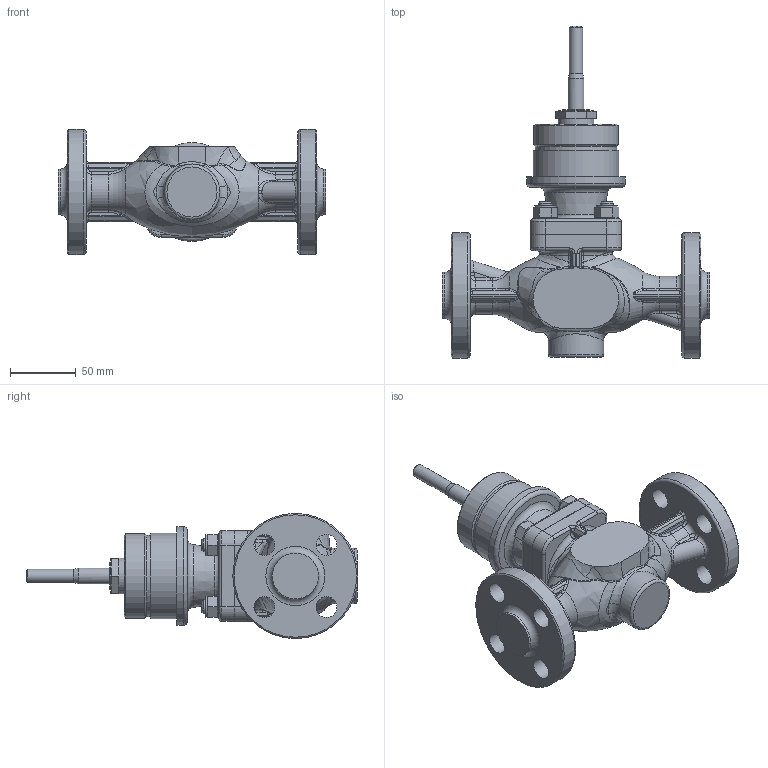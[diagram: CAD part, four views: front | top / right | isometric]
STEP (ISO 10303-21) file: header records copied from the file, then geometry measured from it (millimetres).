
FILE_DESCRIPTION(/* description */ (''),/* implementation_level */ '2;1');
FILE_NAME(/* name */ 'CV3xx_NPS_1_2_priruba_CL600.stp',/* time_stamp */ '2014-01-07T07:31:50+01:00',/* author */ (''),/* organization */ ('LDM'),/* preprocessor_version */ 'ST-DEVELOPER v11',/* originating_system */ 'SIEMENS PLM Software NX 7.0',/* authorisation */ '');
FILE_SCHEMA (('CONFIG_CONTROL_DESIGN'));
Length unit declared in the file: millimetre
Products named in the file (1): adamED63yt1f
Bounding box: 203 x 251.97 x 95 mm (x, y, z)
Volume: 905444.1 mm3; surface area: 108831.7 mm2
Topology: 1 solids, 5 shells, 536 faces, 1237 edges, 719 vertices
Faces by surface type: cylinder 151, bspline 131, plane 113, cone 78, torus 55, sphere 8
Full cylindrical faces by diameter (mm): 10 x13, 12 x1, 15.9 x8, 16 x8, 21 x1, 27 x1, 34.9 x2, 42 x1, 48 x1, 61.6 x1, 64 x1, 65 x1, 75 x1, 95 x2
Entity records: 17554 total; most frequent: CARTESIAN_POINT 6751, ORIENTED_EDGE 2242, DIRECTION 2103, EDGE_CURVE 1121, AXIS2_PLACEMENT_3D 924, VERTEX_POINT 684, EDGE_LOOP 657, ADVANCED_FACE 536
